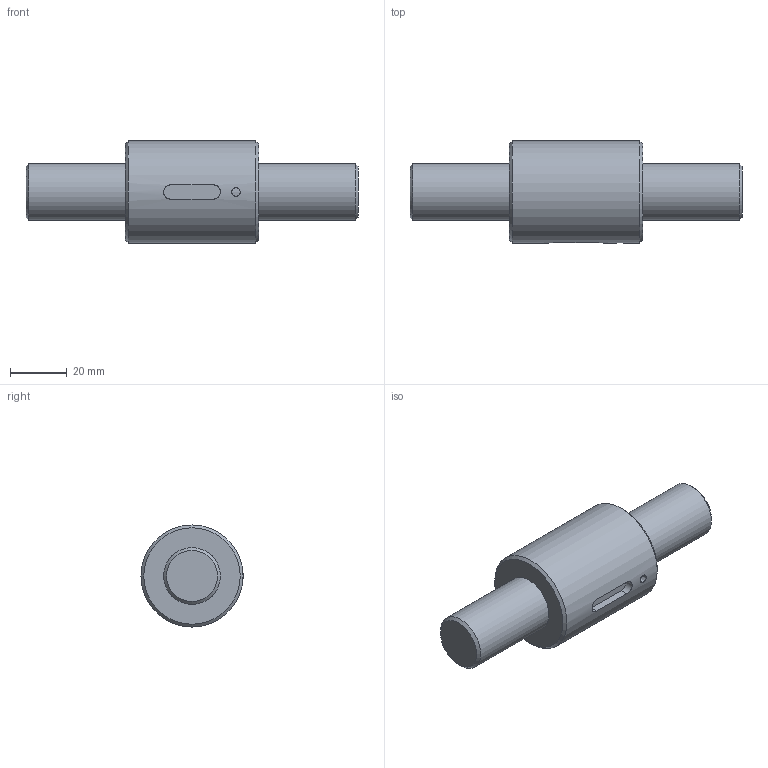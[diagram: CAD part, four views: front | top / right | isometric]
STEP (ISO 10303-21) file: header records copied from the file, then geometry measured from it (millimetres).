
FILE_DESCRIPTION(/* description */ (''),/* implementation_level */ '2;1');
FILE_NAME(/* name */ 'SCNH2005.stp',/* time_stamp */ '2016-07-18T13:20:32+08:00',/* author */ (''),/* organization */ (''),/* preprocessor_version */ 'ST-DEVELOPER v11',/* originating_system */ 'SIEMENS UGS NX 6.0',/* authorisation */ '');
FILE_SCHEMA (('CONFIG_CONTROL_DESIGN'));
Length unit declared in the file: millimetre
Products named in the file (1): didi6F95hpj0
Bounding box: 117 x 36 x 36 mm (x, y, z)
Volume: 69324.3 mm3; surface area: 17636.4 mm2
Topology: 2 solids, 2 shells, 18 faces, 39 edges, 26 vertices
Faces by surface type: plane 7, cylinder 5, cone 4, extrusion 2
Full cylindrical faces by diameter (mm): 20 x2, 36 x1
Entity records: 732 total; most frequent: CARTESIAN_POINT 277, DIRECTION 70, ORIENTED_EDGE 64, EDGE_CURVE 32, EDGE_LOOP 30, AXIS2_PLACEMENT_3D 29, VERTEX_POINT 26, FACE_BOUND 21
